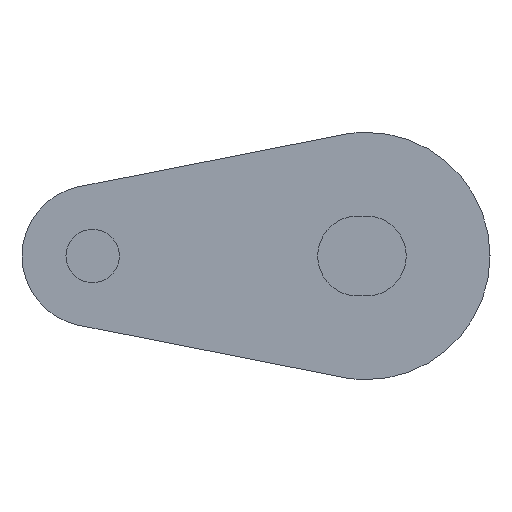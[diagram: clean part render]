
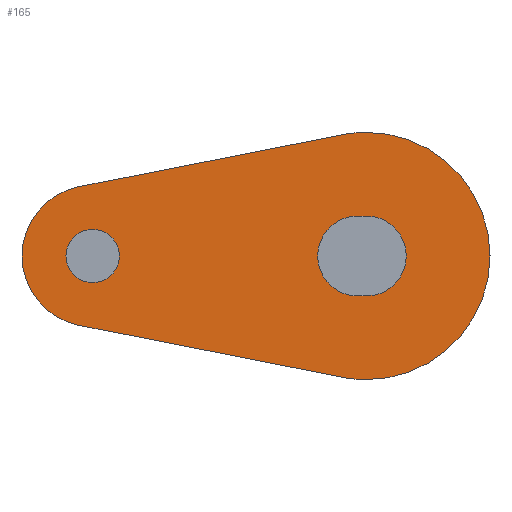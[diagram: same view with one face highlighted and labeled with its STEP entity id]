
A CAD part, left-side view. The second image highlights one B-rep face of the part: STEP entity #165.
In plain terms, the highlighted planar face has unit normal (-1, 0, 0).
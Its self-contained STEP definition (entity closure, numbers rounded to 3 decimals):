
#28 = EDGE_CURVE ( 'NONE', #574, #533, #295, .T. ) ;
#49 = EDGE_CURVE ( 'NONE', #565, #567, #282, .T. ) ;
#55 = EDGE_CURVE ( 'NONE', #650, #571, #280, .T. ) ;
#56 = AXIS2_PLACEMENT_3D ( 'NONE', #740, #732, #733 ) ;
#61 = AXIS2_PLACEMENT_3D ( 'NONE', #766, #767, #768 ) ;
#64 = AXIS2_PLACEMENT_3D ( 'NONE', #838, #872, #829 ) ;
#67 = AXIS2_PLACEMENT_3D ( 'NONE', #809, #862, #863 ) ;
#71 = AXIS2_PLACEMENT_3D ( 'NONE', #578, #526, #527 ) ;
#82 = EDGE_CURVE ( 'NONE', #571, #650, #266, .T. ) ;
#83 = EDGE_CURVE ( 'NONE', #627, #541, #269, .T. ) ;
#84 = EDGE_CURVE ( 'NONE', #533, #591, #262, .T. ) ;
#85 = AXIS2_PLACEMENT_3D ( 'NONE', #726, #731, #729 ) ;
#89 = EDGE_CURVE ( 'NONE', #567, #641, #264, .T. ) ;
#104 = EDGE_CURVE ( 'NONE', #591, #565, #241, .T. ) ;
#113 = EDGE_CURVE ( 'NONE', #538, #553, #230, .T. ) ;
#129 = AXIS2_PLACEMENT_3D ( 'NONE', #727, #756, #755 ) ;
#132 = EDGE_CURVE ( 'NONE', #641, #574, #542, .T. ) ;
#143 = AXIS2_PLACEMENT_3D ( 'NONE', #847, #864, #865 ) ;
#144 = EDGE_CURVE ( 'NONE', #541, #538, #685, .T. ) ;
#153 = AXIS2_PLACEMENT_3D ( 'NONE', #859, #848, #849 ) ;
#155 = EDGE_CURVE ( 'NONE', #553, #627, #676, .T. ) ;
#165 = ADVANCED_FACE ( 'NONE', ( #686, #679, #677 ), #871, .T. ) ;
#229 = VECTOR ( 'NONE', #816, 1000. ) ;
#230 = LINE ( 'NONE', #808, #229 ) ;
#235 = ORIENTED_EDGE ( 'NONE', *, *, #132, .F. ) ;
#241 = LINE ( 'NONE', #783, #250 ) ;
#250 = VECTOR ( 'NONE', #799, 1000. ) ;
#261 = VECTOR ( 'NONE', #773, 1000. ) ;
#262 = CIRCLE ( 'NONE', #61, 7. ) ;
#264 = LINE ( 'NONE', #769, #261 ) ;
#266 = CIRCLE ( 'NONE', #56, 1.51 ) ;
#268 = VECTOR ( 'NONE', #765, 1000. ) ;
#269 = LINE ( 'NONE', #757, #268 ) ;
#280 = CIRCLE ( 'NONE', #129, 1.51 ) ;
#282 = CIRCLE ( 'NONE', #85, 4. ) ;
#295 = CIRCLE ( 'NONE', #71, 7. ) ;
#322 = EDGE_LOOP ( 'NONE', ( #461, #462, #463, #514 ) ) ;
#323 = EDGE_LOOP ( 'NONE', ( #399, #398 ) ) ;
#324 = EDGE_LOOP ( 'NONE', ( #457, #471, #470, #456, #235, #466 ) ) ;
#398 = ORIENTED_EDGE ( 'NONE', *, *, #82, .T. ) ;
#399 = ORIENTED_EDGE ( 'NONE', *, *, #55, .T. ) ;
#456 = ORIENTED_EDGE ( 'NONE', *, *, #28, .F. ) ;
#457 = ORIENTED_EDGE ( 'NONE', *, *, #49, .F. ) ;
#461 = ORIENTED_EDGE ( 'NONE', *, *, #155, .T. ) ;
#462 = ORIENTED_EDGE ( 'NONE', *, *, #83, .T. ) ;
#463 = ORIENTED_EDGE ( 'NONE', *, *, #144, .T. ) ;
#466 = ORIENTED_EDGE ( 'NONE', *, *, #89, .F. ) ;
#470 = ORIENTED_EDGE ( 'NONE', *, *, #84, .F. ) ;
#471 = ORIENTED_EDGE ( 'NONE', *, *, #104, .F. ) ;
#514 = ORIENTED_EDGE ( 'NONE', *, *, #113, .T. ) ;
#526 = DIRECTION ( 'NONE',  ( 1., 0., 0. ) ) ;
#527 = DIRECTION ( 'NONE',  ( 0., 0., -1. ) ) ;
#533 = VERTEX_POINT ( 'NONE', #997 ) ;
#538 = VERTEX_POINT ( 'NONE', #979 ) ;
#541 = VERTEX_POINT ( 'NONE', #980 ) ;
#542 = CIRCLE ( 'NONE', #67, 7. ) ;
#553 = VERTEX_POINT ( 'NONE', #973 ) ;
#565 = VERTEX_POINT ( 'NONE', #977 ) ;
#567 = VERTEX_POINT ( 'NONE', #968 ) ;
#571 = VERTEX_POINT ( 'NONE', #969 ) ;
#574 = VERTEX_POINT ( 'NONE', #970 ) ;
#578 = CARTESIAN_POINT ( 'NONE',  ( -92., 0., 0. ) ) ;
#591 = VERTEX_POINT ( 'NONE', #963 ) ;
#627 = VERTEX_POINT ( 'NONE', #1043 ) ;
#641 = VERTEX_POINT ( 'NONE', #1046 ) ;
#650 = VERTEX_POINT ( 'NONE', #1038 ) ;
#676 = CIRCLE ( 'NONE', #143, 2.26 ) ;
#677 = FACE_OUTER_BOUND ( 'NONE', #324, .T. ) ;
#679 = FACE_BOUND ( 'NONE', #323, .T. ) ;
#685 = CIRCLE ( 'NONE', #153, 2.26 ) ;
#686 = FACE_BOUND ( 'NONE', #322, .T. ) ;
#726 = CARTESIAN_POINT ( 'NONE',  ( -92., 15.5, 0. ) ) ;
#727 = CARTESIAN_POINT ( 'NONE',  ( -92., 15.5, 0. ) ) ;
#729 = DIRECTION ( 'NONE',  ( 0., 0., -1. ) ) ;
#731 = DIRECTION ( 'NONE',  ( 1., 0., 0. ) ) ;
#732 = DIRECTION ( 'NONE',  ( 1., 0., 0. ) ) ;
#733 = DIRECTION ( 'NONE',  ( 0., 0., -1. ) ) ;
#740 = CARTESIAN_POINT ( 'NONE',  ( -92., 15.5, 0. ) ) ;
#755 = DIRECTION ( 'NONE',  ( 0., 0., -1. ) ) ;
#756 = DIRECTION ( 'NONE',  ( 1., 0., 0. ) ) ;
#757 = CARTESIAN_POINT ( 'NONE',  ( -92., 0.5, 2.26 ) ) ;
#765 = DIRECTION ( 'NONE',  ( 0., -1., 0. ) ) ;
#766 = CARTESIAN_POINT ( 'NONE',  ( -92., 0., 0. ) ) ;
#767 = DIRECTION ( 'NONE',  ( 1., 0., 0. ) ) ;
#768 = DIRECTION ( 'NONE',  ( 0., 0., -1. ) ) ;
#769 = CARTESIAN_POINT ( 'NONE',  ( -92., 16.274, 3.924 ) ) ;
#773 = DIRECTION ( 'NONE',  ( 0., -0.981, 0.194 ) ) ;
#783 = CARTESIAN_POINT ( 'NONE',  ( -92., 1.355, -6.868 ) ) ;
#799 = DIRECTION ( 'NONE',  ( 0., 0.981, 0.194 ) ) ;
#808 = CARTESIAN_POINT ( 'NONE',  ( -92., 0.5, -2.26 ) ) ;
#809 = CARTESIAN_POINT ( 'NONE',  ( -92., 0., 0. ) ) ;
#816 = DIRECTION ( 'NONE',  ( 0., 1., 0. ) ) ;
#829 = DIRECTION ( 'NONE',  ( 0., 0., -1. ) ) ;
#838 = CARTESIAN_POINT ( 'NONE',  ( -92., 15.5, 0. ) ) ;
#847 = CARTESIAN_POINT ( 'NONE',  ( -92., 0.5, 0. ) ) ;
#848 = DIRECTION ( 'NONE',  ( 1., 0., 0. ) ) ;
#849 = DIRECTION ( 'NONE',  ( 0., 0., -1. ) ) ;
#859 = CARTESIAN_POINT ( 'NONE',  ( -92., 0., 0. ) ) ;
#862 = DIRECTION ( 'NONE',  ( 1., 0., 0. ) ) ;
#863 = DIRECTION ( 'NONE',  ( 0., 0., -1. ) ) ;
#864 = DIRECTION ( 'NONE',  ( 1., 0., 0. ) ) ;
#865 = DIRECTION ( 'NONE',  ( 0., 0., -1. ) ) ;
#871 = PLANE ( 'NONE',  #64 ) ;
#872 = DIRECTION ( 'NONE',  ( -1., 0., 0. ) ) ;
#963 = CARTESIAN_POINT ( 'NONE',  ( -92., 1.355, -6.868 ) ) ;
#968 = CARTESIAN_POINT ( 'NONE',  ( -92., 16.274, 3.924 ) ) ;
#969 = CARTESIAN_POINT ( 'NONE',  ( -92., 15.5, 1.51 ) ) ;
#970 = CARTESIAN_POINT ( 'NONE',  ( -92., 0., 7. ) ) ;
#973 = CARTESIAN_POINT ( 'NONE',  ( -92., 0.5, -2.26 ) ) ;
#977 = CARTESIAN_POINT ( 'NONE',  ( -92., 16.274, -3.924 ) ) ;
#979 = CARTESIAN_POINT ( 'NONE',  ( -92., 0., -2.26 ) ) ;
#980 = CARTESIAN_POINT ( 'NONE',  ( -92., 0., 2.26 ) ) ;
#997 = CARTESIAN_POINT ( 'NONE',  ( -92., 0., -7. ) ) ;
#1038 = CARTESIAN_POINT ( 'NONE',  ( -92., 15.5, -1.51 ) ) ;
#1043 = CARTESIAN_POINT ( 'NONE',  ( -92., 0.5, 2.26 ) ) ;
#1046 = CARTESIAN_POINT ( 'NONE',  ( -92., 1.355, 6.868 ) ) ;
